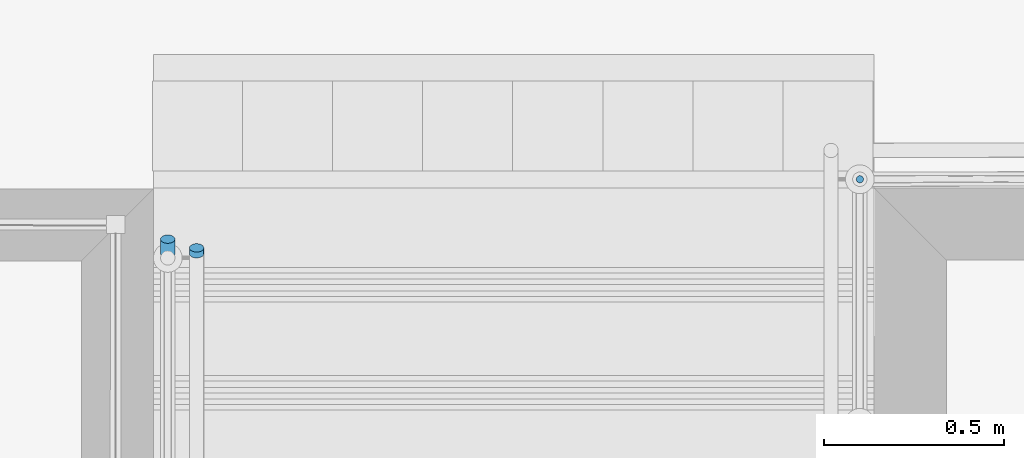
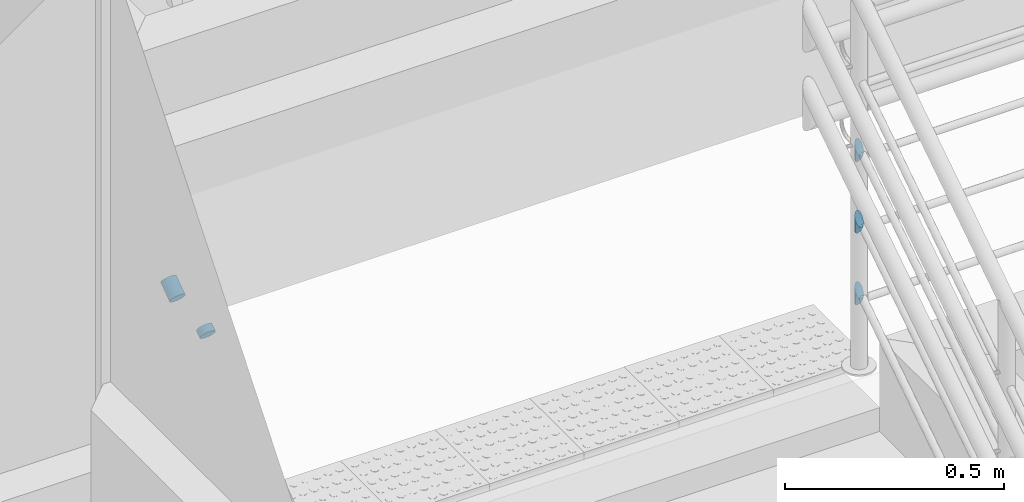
# One storey, part 145 of 237: 6 building element parts, 2 elements without a shape of their own.
"""IFC2X3 building model written with IfcOpenShell, lengths in millimetres."""

from ifc_helpers import new_model, entity, si_unit, converted_unit, derived_unit, money_unit, direction, frame, origin_with_axes, place, context, subcontext, project, spatial, faceted_brep, material, type_object, element, aggregate, save


model = new_model("IFC2X3")

# Units and contexts
model_context = context("Model", 3, precision=0.01, world=origin_with_axes(), true_north=direction((0.0, 1.0)))
body_context = subcontext(model_context, "Body", "Model", "MODEL_VIEW")
ifc_project = project(units=[si_unit("LENGTHUNIT", "METRE", prefix="MILLI"), si_unit("AREAUNIT", "SQUARE_METRE"), si_unit("VOLUMEUNIT", "CUBIC_METRE"), converted_unit("PLANEANGLEUNIT", "DEGREE", entity("IfcPlaneAngleMeasure", 0.0174532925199), si_unit("PLANEANGLEUNIT", "RADIAN"), dimensions=[0, 0, 0, 0, 0, 0, 0]), money_unit("USD"), converted_unit("TIMEUNIT", "Year", entity("IfcTimeMeasure", 31556926.0), si_unit("TIMEUNIT", "SECOND"), dimensions=[0, 0, 1, 0, 0, 0, 0]), si_unit("MASSUNIT", "GRAM", prefix="KILO"), si_unit("THERMODYNAMICTEMPERATUREUNIT", "DEGREE_CELSIUS"), si_unit("LUMINOUSINTENSITYUNIT", "LUMEN"), si_unit("ENERGYUNIT", "JOULE", prefix="MEGA"), derived_unit("THERMALCONDUCTANCEUNIT", [(si_unit("POWERUNIT", "WATT"), 1), (si_unit("LENGTHUNIT", "METRE"), -1), (si_unit("THERMODYNAMICTEMPERATUREUNIT", "KELVIN"), -1)]), derived_unit("SPECIFICHEATCAPACITYUNIT", [(si_unit("ENERGYUNIT", "JOULE"), 1), (si_unit("MASSUNIT", "GRAM", prefix="KILO"), -1), (si_unit("THERMODYNAMICTEMPERATUREUNIT", "KELVIN"), -1)]), derived_unit("MASSDENSITYUNIT", [(si_unit("MASSUNIT", "GRAM", prefix="KILO"), 1), (si_unit("VOLUMEUNIT", "CUBIC_METRE"), -1)])], contexts=[model_context])

# Site, building, storey
site_placement = place(None, origin_with_axes())
site = spatial("IfcSite", under=ifc_project, at=site_placement, Name="Local", CompositionType="ELEMENT")
building_placement = place(site_placement, origin_with_axes())
building = spatial("IfcBuilding", under=site, at=building_placement, Name="Construção", CompositionType="ELEMENT")
storey_placement = place(building_placement, origin_with_axes())
storey = spatial("IfcBuildingStorey", under=building, at=storey_placement, Name="Pavimento Térreo", CompositionType="ELEMENT", Elevation=0.0)

# Railing, building element parts
railing_type = type_object("IfcRailingType", Name="Tipo de Guarda-Corpo", PredefinedType="NOTDEFINED")
railing_1_placement = place(storey_placement, frame((77071.0413397, 23732.4143775, -4865.39060156), z_axis=(0.0, 0.0, 1.0), x_axis=(1.0, 0.0, 0.0)))
railing_1 = element("IfcRailing", 1, at=railing_1_placement, inside=storey, type_object=railing_type, Name="Guarda-Corpo - 001", PredefinedType="NOTDEFINED")
ifc_material = material(Name="Aço - Inoxidável")
building_element_part_1_placement = place(railing_1_placement, origin_with_axes())
building_element_part_1 = element("IfcBuildingElementPart", 2, at=building_element_part_1_placement, material=ifc_material, Name="Aço - Inoxidável", context=body_context, shape_type="Brep", body=[
    faceted_brep([(1797.91815812, -254.940737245, 2229.93461638), (1798.22200306, -256.971998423, 2232.75161015), (1798.22200306, -240.749577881, 2244.44917707), (1797.91815812, -238.718316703, 2241.6321833), (1798.22200306, -252.909476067, 2227.11762262), (1799.12430571, -250.939933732, 2224.38622179), (1800.59765005, -249.091953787, 2221.82340611), (1802.59726926, -247.421686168, 2219.50704546), (1805.06240593, -245.979881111, 2217.50752127), (1807.91815812, -244.810347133, 2215.88558808), (1811.07775526, -243.948619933, 2214.69052751), (1814.44519457, -243.420882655, 2213.95865086), (1817.91815812, -243.243170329, 2213.71219584), (1821.39112168, -243.420882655, 2213.95865086), (1824.75856099, -243.948619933, 2214.69052751), (1827.91815812, -244.810347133, 2215.88558808), (1830.77391032, -245.979881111, 2217.50752127), (1833.23904699, -247.421686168, 2219.50704546), (1835.2386662, -249.091953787, 2221.82340611), (1836.71201054, -250.939933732, 2224.38622179), (1837.61431318, -252.909476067, 2227.11762262), (1837.91815812, -254.940737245, 2229.93461638), (1837.61431318, -256.971998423, 2232.75161015), (1836.71201054, -258.941540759, 2235.48301098), (1835.2386662, -260.789520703, 2238.04582666), (1833.23904699, -262.459788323, 2240.36218731), (1830.77391032, -263.901593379, 2242.36171149), (1827.91815812, -265.071127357, 2243.98364468), (1824.75856099, -265.932854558, 2245.17870526), (1821.39112168, -266.460591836, 2245.91058191), (1817.91815812, -266.638304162, 2246.15703693), (1814.44519457, -266.460591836, 2245.91058191), (1811.07775526, -265.932854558, 2245.17870526), (1807.91815812, -265.071127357, 2243.98364468), (1805.06240593, -263.901593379, 2242.36171149), (1802.59726926, -262.459788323, 2240.36218731), (1800.59765005, -260.789520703, 2238.04582666), (1799.12430571, -258.941540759, 2235.48301098), (1799.12430571, -242.719120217, 2247.1805779), (1800.59765005, -244.567100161, 2249.74339357), (1802.59726926, -246.237367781, 2252.05975422), (1805.06240593, -247.679172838, 2254.05927841), (1807.91815812, -248.848706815, 2255.6812116), (1811.07775526, -249.710434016, 2256.87627218), (1814.44519457, -250.238171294, 2257.60814882), (1817.91815812, -250.41588362, 2257.85460384), (1821.39112168, -250.238171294, 2257.60814882), (1824.75856099, -249.710434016, 2256.87627218), (1827.91815812, -248.848706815, 2255.6812116), (1830.77391032, -247.679172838, 2254.05927841), (1833.23904699, -246.237367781, 2252.05975422), (1835.2386662, -244.567100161, 2249.74339357), (1836.71201054, -242.719120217, 2247.1805779), (1837.61431318, -240.749577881, 2244.44917707), (1837.91815812, -238.718316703, 2241.6321833), (1837.61431318, -236.687055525, 2238.81518954), (1836.71201054, -234.71751319, 2236.0837887), (1835.2386662, -232.869533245, 2233.52097303), (1833.23904699, -231.199265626, 2231.20461238), (1830.77391032, -229.757460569, 2229.20508819), (1827.91815812, -228.587926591, 2227.583155), (1824.75856099, -227.726199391, 2226.38809443), (1821.39112168, -227.198462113, 2225.65621778), (1817.91815812, -227.020749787, 2225.40976276), (1814.44519457, -227.198462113, 2225.65621778), (1811.07775526, -227.726199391, 2226.38809443), (1807.91815812, -228.587926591, 2227.583155), (1805.06240593, -229.757460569, 2229.20508819), (1802.59726926, -231.199265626, 2231.20461238), (1800.59765005, -232.869533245, 2233.52097303), (1799.12430571, -234.71751319, 2236.0837887), (1798.22200306, -236.687055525, 2238.81518954)], [[[0, 1, 2, 3]], [[0, 4, 5, 6, 7, 8, 9, 10, 11, 12, 13, 14, 15, 16, 17, 18, 19, 20, 21, 22, 23, 24, 25, 26, 27, 28, 29, 30, 31, 32, 33, 34, 35, 36, 37, 1]], [[1, 37, 38, 2]], [[3, 2, 38, 39, 40, 41, 42, 43, 44, 45, 46, 47, 48, 49, 50, 51, 52, 53, 54, 55, 56, 57, 58, 59, 60, 61, 62, 63, 64, 65, 66, 67, 68, 69, 70, 71]], [[4, 0, 3, 71]], [[5, 4, 71, 70]], [[6, 5, 70, 69]], [[7, 6, 69, 68]], [[8, 7, 68, 67]], [[9, 8, 67, 66]], [[10, 9, 66, 65]], [[11, 10, 65, 64]], [[12, 11, 64, 63]], [[13, 12, 63, 62]], [[14, 13, 62, 61]], [[15, 14, 61, 60]], [[16, 15, 60, 59]], [[17, 16, 59, 58]], [[18, 17, 58, 57]], [[19, 18, 57, 56]], [[20, 19, 56, 55]], [[21, 20, 55, 54]], [[22, 21, 54, 53]], [[23, 22, 53, 52]], [[24, 23, 52, 51]], [[25, 24, 51, 50]], [[26, 25, 50, 49]], [[27, 26, 49, 48]], [[28, 27, 48, 47]], [[29, 28, 47, 46]], [[30, 29, 46, 45]], [[31, 30, 45, 44]], [[32, 31, 44, 43]], [[33, 32, 43, 42]], [[34, 33, 42, 41]], [[35, 34, 41, 40]], [[36, 35, 40, 39]], [[37, 36, 39, 38]]]),
])
building_element_part_2_placement = place(railing_1_placement, origin_with_axes())
building_element_part_2 = element("IfcBuildingElementPart", 3, at=building_element_part_2_placement, material=ifc_material, Name="Aço - Inoxidável", context=body_context, shape_type="Brep", body=[
    faceted_brep([(1717.91815812, -254.940737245, 2359.93461638), (1718.22200306, -256.971998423, 2362.75161015), (1718.22200306, -216.415947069, 2391.99552744), (1717.91815812, -214.38468589, 2389.17853368), (1718.22200306, -252.909476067, 2357.11762262), (1719.12430571, -250.939933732, 2354.38622179), (1720.59765005, -249.091953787, 2351.82340611), (1722.59726926, -247.421686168, 2349.50704546), (1725.06240593, -245.979881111, 2347.50752127), (1727.91815812, -244.810347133, 2345.88558808), (1731.07775526, -243.948619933, 2344.69052751), (1734.44519457, -243.420882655, 2343.95865086), (1737.91815812, -243.243170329, 2343.71219584), (1741.39112168, -243.420882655, 2343.95865086), (1744.75856099, -243.948619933, 2344.69052751), (1747.91815812, -244.810347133, 2345.88558808), (1750.77391032, -245.979881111, 2347.50752127), (1753.23904699, -247.421686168, 2349.50704546), (1755.2386662, -249.091953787, 2351.82340611), (1756.71201054, -250.939933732, 2354.38622179), (1757.61431318, -252.909476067, 2357.11762262), (1757.91815812, -254.940737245, 2359.93461638), (1757.61431318, -256.971998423, 2362.75161015), (1756.71201054, -258.941540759, 2365.48301098), (1755.2386662, -260.789520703, 2368.04582666), (1753.23904699, -262.459788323, 2370.36218731), (1750.77391032, -263.901593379, 2372.36171149), (1747.91815812, -265.071127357, 2373.98364468), (1744.75856099, -265.932854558, 2375.17870526), (1741.39112168, -266.460591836, 2375.91058191), (1737.91815812, -266.638304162, 2376.15703693), (1734.44519457, -266.460591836, 2375.91058191), (1731.07775526, -265.932854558, 2375.17870526), (1727.91815812, -265.071127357, 2373.98364468), (1725.06240593, -263.901593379, 2372.36171149), (1722.59726926, -262.459788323, 2370.36218731), (1720.59765005, -260.789520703, 2368.04582666), (1719.12430571, -258.941540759, 2365.48301098), (1719.12430571, -218.385489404, 2394.72692827), (1720.59765005, -220.233469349, 2397.28974395), (1722.59726926, -221.903736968, 2399.6061046), (1725.06240593, -223.345542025, 2401.60562879), (1727.91815812, -224.515076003, 2403.22756198), (1731.07775526, -225.376803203, 2404.42262255), (1734.44519457, -225.904540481, 2405.1544992), (1737.91815812, -226.082252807, 2405.40095422), (1741.39112168, -225.904540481, 2405.1544992), (1744.75856099, -225.376803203, 2404.42262255), (1747.91815812, -224.515076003, 2403.22756198), (1750.77391032, -223.345542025, 2401.60562879), (1753.23904699, -221.903736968, 2399.6061046), (1755.2386662, -220.233469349, 2397.28974395), (1756.71201054, -218.385489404, 2394.72692827), (1757.61431318, -216.415947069, 2391.99552744), (1757.91815812, -214.38468589, 2389.17853368), (1757.61431318, -212.353424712, 2386.36153991), (1756.71201054, -210.383882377, 2383.63013908), (1755.2386662, -208.535902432, 2381.0673234), (1753.23904699, -206.865634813, 2378.75096275), (1750.77391032, -205.423829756, 2376.75143857), (1747.91815812, -204.254295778, 2375.12950538), (1744.75856099, -203.392568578, 2373.9344448), (1741.39112168, -202.8648313, 2373.20256815), (1737.91815812, -202.687118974, 2372.95611313), (1734.44519457, -202.8648313, 2373.20256815), (1731.07775526, -203.392568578, 2373.9344448), (1727.91815812, -204.254295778, 2375.12950538), (1725.06240593, -205.423829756, 2376.75143857), (1722.59726926, -206.865634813, 2378.75096275), (1720.59765005, -208.535902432, 2381.0673234), (1719.12430571, -210.383882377, 2383.63013908), (1718.22200306, -212.353424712, 2386.36153991)], [[[0, 1, 2, 3]], [[0, 4, 5, 6, 7, 8, 9, 10, 11, 12, 13, 14, 15, 16, 17, 18, 19, 20, 21, 22, 23, 24, 25, 26, 27, 28, 29, 30, 31, 32, 33, 34, 35, 36, 37, 1]], [[1, 37, 38, 2]], [[3, 2, 38, 39, 40, 41, 42, 43, 44, 45, 46, 47, 48, 49, 50, 51, 52, 53, 54, 55, 56, 57, 58, 59, 60, 61, 62, 63, 64, 65, 66, 67, 68, 69, 70, 71]], [[4, 0, 3, 71]], [[5, 4, 71, 70]], [[6, 5, 70, 69]], [[7, 6, 69, 68]], [[8, 7, 68, 67]], [[9, 8, 67, 66]], [[10, 9, 66, 65]], [[11, 10, 65, 64]], [[12, 11, 64, 63]], [[13, 12, 63, 62]], [[14, 13, 62, 61]], [[15, 14, 61, 60]], [[16, 15, 60, 59]], [[17, 16, 59, 58]], [[18, 17, 58, 57]], [[19, 18, 57, 56]], [[20, 19, 56, 55]], [[21, 20, 55, 54]], [[22, 21, 54, 53]], [[23, 22, 53, 52]], [[24, 23, 52, 51]], [[25, 24, 51, 50]], [[26, 25, 50, 49]], [[27, 26, 49, 48]], [[28, 27, 48, 47]], [[29, 28, 47, 46]], [[30, 29, 46, 45]], [[31, 30, 45, 44]], [[32, 31, 44, 43]], [[33, 32, 43, 42]], [[34, 33, 42, 41]], [[35, 34, 41, 40]], [[36, 35, 40, 39]], [[37, 36, 39, 38]]]),
])
aggregate(railing_1, [building_element_part_1, building_element_part_2])

railing_2_placement = place(storey_placement, frame((84562.8908804, 21657.2175927, -4868.39227091), z_axis=(0.0, 0.0, 1.0), x_axis=(1.0, 0.0, 0.0)))
railing_2 = element("IfcRailing", 4, at=railing_2_placement, inside=storey, type_object=railing_type, Name="Guarda-Corpo - 002", PredefinedType="NOTDEFINED")
building_element_part_3_placement = place(railing_2_placement, origin_with_axes())
building_element_part_3 = element("IfcBuildingElementPart", 5, at=building_element_part_3_placement, material=ifc_material, Name="Aço - Inoxidável", context=body_context, shape_type="Brep", body=[
    faceted_brep([(-3824.08330714, 2025.13232663, 1571.19341628), (-3823.93138467, 2026.86880841, 1571.34905472), (-3823.93138467, 2026.86880841, 1587.48837463), (-3824.08330714, 2025.13232663, 1584.27445064), (-3824.08330714, 2028.60529018, 1571.20099188), (-3824.53445846, 2023.44860697, 1570.73880556), (-3825.27113063, 2021.86880841, 1569.99903566), (-3826.27094024, 2020.44093231, 1568.99658413), (-3827.50350857, 2019.20836398, 1567.76190994), (-3828.93138467, 2018.20855437, 1566.33252804), (-3830.51118324, 2017.4718822, 1564.75186949), (-3832.1949029, 2017.02073088, 1563.06796179), (-3833.93138467, 2016.86880841, 1561.33196962), (-3835.66786645, 2017.02073088, 1559.59664024), (-3837.35158611, 2017.4718822, 1557.91470073), (-3838.93138467, 2018.20855437, 1556.33725599), (-3840.35926077, 2019.20836398, 1554.91223588), (-3841.5918291, 2020.44093231, 1553.6829389), (-3842.59163871, 2021.86880841, 1552.68671663), (-3843.32831088, 2023.44860697, 1551.95383878), (-3843.7794622, 2025.13232663, 1551.50657346), (-3843.93138467, 2026.86880841, 1551.35851062), (-3843.7794622, 2028.60529018, 1551.51414906), (-3843.32831088, 2030.28900984, 1551.96875978), (-3842.59163871, 2031.86880841, 1552.70852968), (-3841.5918291, 2033.2966845, 1553.71098121), (-3840.35926077, 2034.52925284, 1554.9456554), (-3838.93138467, 2035.52906244, 1556.37503729), (-3837.35158611, 2036.26573461, 1557.95569585), (-3835.66786645, 2036.71688594, 1559.63960355), (-3833.93138467, 2036.86880841, 1561.37559571), (-3832.1949029, 2036.71688594, 1563.1109251), (-3830.51118324, 2036.26573461, 1564.79286461), (-3828.93138467, 2035.52906244, 1566.37030935), (-3827.50350857, 2034.52925284, 1567.79532946), (-3826.27094024, 2033.2966845, 1569.02462644), (-3825.27113063, 2031.86880841, 1570.02084871), (-3824.53445846, 2030.28900984, 1570.75372656), (-3824.08330714, 2028.60529018, 1590.70229862), (-3842.59163871, 2031.86880841, 1596.74249994), (-3843.32831088, 2030.28900984, 1593.81856916), (-3843.7794622, 2028.60529018, 1590.70229862), (-3843.93138467, 2026.86880841, 1587.48837463), (-3843.7794622, 2025.13232663, 1584.27445064), (-3843.32831088, 2023.44860697, 1581.1581801), (-3842.59163871, 2021.86880841, 1578.23424932), (-3841.5918291, 2020.44093231, 1575.59150045), (-3840.35926077, 2019.20836398, 1573.31023209), (-3838.93138467, 2018.20855437, 1571.45975941), (-3837.35158611, 2017.4718822, 1570.0963081), (-3835.66786645, 2017.02073088, 1569.26130593), (-3833.93138467, 2016.86880841, 1568.98012401), (-3832.1949029, 2017.02073088, 1569.26130593), (-3830.51118324, 2017.4718822, 1570.0963081), (-3828.93138467, 2018.20855437, 1571.45975941), (-3827.50350857, 2019.20836398, 1573.31023209), (-3826.27094024, 2020.44093231, 1575.59150045), (-3825.27113063, 2021.86880841, 1578.23424932), (-3824.53445846, 2023.44860697, 1581.1581801), (-3824.53445846, 2030.28900984, 1593.81856916), (-3825.27113063, 2031.86880841, 1596.74249994), (-3826.27094024, 2033.2966845, 1599.3852488), (-3827.50350857, 2034.52925284, 1601.66651717), (-3828.93138467, 2035.52906244, 1603.51698984), (-3830.51118324, 2036.26573461, 1604.88044116), (-3832.1949029, 2036.71688594, 1605.71544333), (-3833.93138467, 2036.86880841, 1605.99662525), (-3835.66786645, 2036.71688594, 1605.71544333), (-3837.35158611, 2036.26573461, 1604.88044116), (-3838.93138467, 2035.52906244, 1603.51698984), (-3840.35926077, 2034.52925284, 1601.66651717), (-3841.5918291, 2033.2966845, 1599.3852488)], [[[0, 1, 2, 3]], [[4, 1, 0, 5, 6, 7, 8, 9, 10, 11, 12, 13, 14, 15, 16, 17, 18, 19, 20, 21, 22, 23, 24, 25, 26, 27, 28, 29, 30, 31, 32, 33, 34, 35, 36, 37]], [[1, 4, 38, 2]], [[39, 40, 41, 42, 43, 44, 45, 46, 47, 48, 49, 50, 51, 52, 53, 54, 55, 56, 57, 58, 3, 2, 38, 59, 60, 61, 62, 63, 64, 65, 66, 67, 68, 69, 70, 71]], [[5, 0, 3, 58]], [[6, 5, 58, 57]], [[7, 6, 57, 56]], [[8, 7, 56, 55]], [[9, 8, 55, 54]], [[10, 9, 54, 53]], [[11, 10, 53, 52]], [[12, 11, 52, 51]], [[13, 12, 51, 50]], [[14, 13, 50, 49]], [[15, 14, 49, 48]], [[16, 15, 48, 47]], [[17, 16, 47, 46]], [[18, 17, 46, 45]], [[19, 18, 45, 44]], [[20, 19, 44, 43]], [[21, 20, 43, 42]], [[22, 21, 42, 41]], [[23, 22, 41, 40]], [[24, 23, 40, 39]], [[25, 24, 39, 71]], [[26, 25, 71, 70]], [[27, 26, 70, 69]], [[28, 27, 69, 68]], [[29, 28, 68, 67]], [[30, 29, 67, 66]], [[31, 30, 66, 65]], [[32, 31, 65, 64]], [[33, 32, 64, 63]], [[34, 33, 63, 62]], [[35, 34, 62, 61]], [[36, 35, 61, 60]], [[37, 36, 60, 59]], [[4, 37, 59, 38]]]),
])
building_element_part_4_placement = place(railing_2_placement, origin_with_axes())
building_element_part_4 = element("IfcBuildingElementPart", 6, at=building_element_part_4_placement, material=ifc_material, Name="Aço - Inoxidável", context=body_context, shape_type="Brep", body=[
    faceted_brep([(-3824.08330714, 2025.13232663, 1771.19341628), (-3823.93138467, 2026.86880841, 1771.34905472), (-3823.93138467, 2026.86880841, 1787.48837463), (-3824.08330714, 2025.13232663, 1784.27445064), (-3824.08330714, 2028.60529018, 1771.20099188), (-3824.53445846, 2023.44860697, 1770.73880556), (-3825.27113063, 2021.86880841, 1769.99903566), (-3826.27094024, 2020.44093231, 1768.99658413), (-3827.50350857, 2019.20836398, 1767.76190994), (-3828.93138467, 2018.20855437, 1766.33252804), (-3830.51118324, 2017.4718822, 1764.75186949), (-3832.1949029, 2017.02073088, 1763.06796179), (-3833.93138467, 2016.86880841, 1761.33196962), (-3835.66786645, 2017.02073088, 1759.59664024), (-3837.35158611, 2017.4718822, 1757.91470073), (-3838.93138467, 2018.20855437, 1756.33725599), (-3840.35926077, 2019.20836398, 1754.91223588), (-3841.5918291, 2020.44093231, 1753.6829389), (-3842.59163871, 2021.86880841, 1752.68671663), (-3843.32831088, 2023.44860697, 1751.95383878), (-3843.7794622, 2025.13232663, 1751.50657346), (-3843.93138467, 2026.86880841, 1751.35851062), (-3843.7794622, 2028.60529018, 1751.51414906), (-3843.32831088, 2030.28900984, 1751.96875978), (-3842.59163871, 2031.86880841, 1752.70852968), (-3841.5918291, 2033.2966845, 1753.71098121), (-3840.35926077, 2034.52925284, 1754.9456554), (-3838.93138467, 2035.52906244, 1756.37503729), (-3837.35158611, 2036.26573461, 1757.95569585), (-3835.66786645, 2036.71688594, 1759.63960355), (-3833.93138467, 2036.86880841, 1761.37559571), (-3832.1949029, 2036.71688594, 1763.1109251), (-3830.51118324, 2036.26573461, 1764.79286461), (-3828.93138467, 2035.52906244, 1766.37030935), (-3827.50350857, 2034.52925284, 1767.79532946), (-3826.27094024, 2033.2966845, 1769.02462644), (-3825.27113063, 2031.86880841, 1770.02084871), (-3824.53445846, 2030.28900984, 1770.75372656), (-3824.08330714, 2028.60529018, 1790.70229862), (-3842.59163871, 2031.86880841, 1796.74249994), (-3843.32831088, 2030.28900984, 1793.81856916), (-3843.7794622, 2028.60529018, 1790.70229862), (-3843.93138467, 2026.86880841, 1787.48837463), (-3843.7794622, 2025.13232663, 1784.27445064), (-3843.32831088, 2023.44860697, 1781.1581801), (-3842.59163871, 2021.86880841, 1778.23424932), (-3841.5918291, 2020.44093231, 1775.59150045), (-3840.35926077, 2019.20836398, 1773.31023209), (-3838.93138467, 2018.20855437, 1771.45975941), (-3837.35158611, 2017.4718822, 1770.0963081), (-3835.66786645, 2017.02073088, 1769.26130593), (-3833.93138467, 2016.86880841, 1768.98012401), (-3832.1949029, 2017.02073088, 1769.26130593), (-3830.51118324, 2017.4718822, 1770.0963081), (-3828.93138467, 2018.20855437, 1771.45975941), (-3827.50350857, 2019.20836398, 1773.31023209), (-3826.27094024, 2020.44093231, 1775.59150045), (-3825.27113063, 2021.86880841, 1778.23424932), (-3824.53445846, 2023.44860697, 1781.1581801), (-3824.53445846, 2030.28900984, 1793.81856916), (-3825.27113063, 2031.86880841, 1796.74249994), (-3826.27094024, 2033.2966845, 1799.3852488), (-3827.50350857, 2034.52925284, 1801.66651717), (-3828.93138467, 2035.52906244, 1803.51698984), (-3830.51118324, 2036.26573461, 1804.88044116), (-3832.1949029, 2036.71688594, 1805.71544333), (-3833.93138467, 2036.86880841, 1805.99662525), (-3835.66786645, 2036.71688594, 1805.71544333), (-3837.35158611, 2036.26573461, 1804.88044116), (-3838.93138467, 2035.52906244, 1803.51698984), (-3840.35926077, 2034.52925284, 1801.66651717), (-3841.5918291, 2033.2966845, 1799.3852488)], [[[0, 1, 2, 3]], [[4, 1, 0, 5, 6, 7, 8, 9, 10, 11, 12, 13, 14, 15, 16, 17, 18, 19, 20, 21, 22, 23, 24, 25, 26, 27, 28, 29, 30, 31, 32, 33, 34, 35, 36, 37]], [[1, 4, 38, 2]], [[39, 40, 41, 42, 43, 44, 45, 46, 47, 48, 49, 50, 51, 52, 53, 54, 55, 56, 57, 58, 3, 2, 38, 59, 60, 61, 62, 63, 64, 65, 66, 67, 68, 69, 70, 71]], [[5, 0, 3, 58]], [[6, 5, 58, 57]], [[7, 6, 57, 56]], [[8, 7, 56, 55]], [[9, 8, 55, 54]], [[10, 9, 54, 53]], [[11, 10, 53, 52]], [[12, 11, 52, 51]], [[13, 12, 51, 50]], [[14, 13, 50, 49]], [[15, 14, 49, 48]], [[16, 15, 48, 47]], [[17, 16, 47, 46]], [[18, 17, 46, 45]], [[19, 18, 45, 44]], [[20, 19, 44, 43]], [[21, 20, 43, 42]], [[22, 21, 42, 41]], [[23, 22, 41, 40]], [[24, 23, 40, 39]], [[25, 24, 39, 71]], [[26, 25, 71, 70]], [[27, 26, 70, 69]], [[28, 27, 69, 68]], [[29, 28, 68, 67]], [[30, 29, 67, 66]], [[31, 30, 66, 65]], [[32, 31, 65, 64]], [[33, 32, 64, 63]], [[34, 33, 63, 62]], [[35, 34, 62, 61]], [[36, 35, 61, 60]], [[37, 36, 60, 59]], [[4, 37, 59, 38]]]),
])
building_element_part_5_placement = place(railing_2_placement, origin_with_axes())
building_element_part_5 = element("IfcBuildingElementPart", 7, at=building_element_part_5_placement, material=ifc_material, Name="Aço - Inoxidável", context=body_context, shape_type="Brep", body=[
    faceted_brep([(-3824.08330714, 2025.13232663, 1771.19341628), (-3823.93138467, 2026.86880841, 1771.34905472), (-3823.93138467, 2026.86880841, 1787.48837463), (-3824.08330714, 2025.13232663, 1784.27445064), (-3824.08330714, 2028.60529018, 1771.20099188), (-3824.53445846, 2023.44860697, 1770.73880556), (-3825.27113063, 2021.86880841, 1769.99903566), (-3826.27094024, 2020.44093231, 1768.99658413), (-3827.50350857, 2019.20836398, 1767.76190994), (-3828.93138467, 2018.20855437, 1766.33252804), (-3830.51118324, 2017.4718822, 1764.75186949), (-3832.1949029, 2017.02073088, 1763.06796179), (-3833.93138467, 2016.86880841, 1761.33196962), (-3835.66786645, 2017.02073088, 1759.59664024), (-3837.35158611, 2017.4718822, 1757.91470073), (-3838.93138467, 2018.20855437, 1756.33725599), (-3840.35926077, 2019.20836398, 1754.91223588), (-3841.5918291, 2020.44093231, 1753.6829389), (-3842.59163871, 2021.86880841, 1752.68671663), (-3843.32831088, 2023.44860697, 1751.95383878), (-3843.7794622, 2025.13232663, 1751.50657346), (-3843.93138467, 2026.86880841, 1751.35851062), (-3843.7794622, 2028.60529018, 1751.51414906), (-3843.32831088, 2030.28900984, 1751.96875978), (-3842.59163871, 2031.86880841, 1752.70852968), (-3841.5918291, 2033.2966845, 1753.71098121), (-3840.35926077, 2034.52925284, 1754.9456554), (-3838.93138467, 2035.52906244, 1756.37503729), (-3837.35158611, 2036.26573461, 1757.95569585), (-3835.66786645, 2036.71688594, 1759.63960355), (-3833.93138467, 2036.86880841, 1761.37559571), (-3832.1949029, 2036.71688594, 1763.1109251), (-3830.51118324, 2036.26573461, 1764.79286461), (-3828.93138467, 2035.52906244, 1766.37030935), (-3827.50350857, 2034.52925284, 1767.79532946), (-3826.27094024, 2033.2966845, 1769.02462644), (-3825.27113063, 2031.86880841, 1770.02084871), (-3824.53445846, 2030.28900984, 1770.75372656), (-3824.08330714, 2028.60529018, 1790.70229862), (-3842.59163871, 2031.86880841, 1796.74249994), (-3843.32831088, 2030.28900984, 1793.81856916), (-3843.7794622, 2028.60529018, 1790.70229862), (-3843.93138467, 2026.86880841, 1787.48837463), (-3843.7794622, 2025.13232663, 1784.27445064), (-3843.32831088, 2023.44860697, 1781.1581801), (-3842.59163871, 2021.86880841, 1778.23424932), (-3841.5918291, 2020.44093231, 1775.59150045), (-3840.35926077, 2019.20836398, 1773.31023209), (-3838.93138467, 2018.20855437, 1771.45975941), (-3837.35158611, 2017.4718822, 1770.0963081), (-3835.66786645, 2017.02073088, 1769.26130593), (-3833.93138467, 2016.86880841, 1768.98012401), (-3832.1949029, 2017.02073088, 1769.26130593), (-3830.51118324, 2017.4718822, 1770.0963081), (-3828.93138467, 2018.20855437, 1771.45975941), (-3827.50350857, 2019.20836398, 1773.31023209), (-3826.27094024, 2020.44093231, 1775.59150045), (-3825.27113063, 2021.86880841, 1778.23424932), (-3824.53445846, 2023.44860697, 1781.1581801), (-3824.53445846, 2030.28900984, 1793.81856916), (-3825.27113063, 2031.86880841, 1796.74249994), (-3826.27094024, 2033.2966845, 1799.3852488), (-3827.50350857, 2034.52925284, 1801.66651717), (-3828.93138467, 2035.52906244, 1803.51698984), (-3830.51118324, 2036.26573461, 1804.88044116), (-3832.1949029, 2036.71688594, 1805.71544333), (-3833.93138467, 2036.86880841, 1805.99662525), (-3835.66786645, 2036.71688594, 1805.71544333), (-3837.35158611, 2036.26573461, 1804.88044116), (-3838.93138467, 2035.52906244, 1803.51698984), (-3840.35926077, 2034.52925284, 1801.66651717), (-3841.5918291, 2033.2966845, 1799.3852488)], [[[0, 1, 2, 3]], [[4, 1, 0, 5, 6, 7, 8, 9, 10, 11, 12, 13, 14, 15, 16, 17, 18, 19, 20, 21, 22, 23, 24, 25, 26, 27, 28, 29, 30, 31, 32, 33, 34, 35, 36, 37]], [[1, 4, 38, 2]], [[39, 40, 41, 42, 43, 44, 45, 46, 47, 48, 49, 50, 51, 52, 53, 54, 55, 56, 57, 58, 3, 2, 38, 59, 60, 61, 62, 63, 64, 65, 66, 67, 68, 69, 70, 71]], [[5, 0, 3, 58]], [[6, 5, 58, 57]], [[7, 6, 57, 56]], [[8, 7, 56, 55]], [[9, 8, 55, 54]], [[10, 9, 54, 53]], [[11, 10, 53, 52]], [[12, 11, 52, 51]], [[13, 12, 51, 50]], [[14, 13, 50, 49]], [[15, 14, 49, 48]], [[16, 15, 48, 47]], [[17, 16, 47, 46]], [[18, 17, 46, 45]], [[19, 18, 45, 44]], [[20, 19, 44, 43]], [[21, 20, 43, 42]], [[22, 21, 42, 41]], [[23, 22, 41, 40]], [[24, 23, 40, 39]], [[25, 24, 39, 71]], [[26, 25, 71, 70]], [[27, 26, 70, 69]], [[28, 27, 69, 68]], [[29, 28, 68, 67]], [[30, 29, 67, 66]], [[31, 30, 66, 65]], [[32, 31, 65, 64]], [[33, 32, 64, 63]], [[34, 33, 63, 62]], [[35, 34, 62, 61]], [[36, 35, 61, 60]], [[37, 36, 60, 59]], [[4, 37, 59, 38]]]),
])
building_element_part_6_placement = place(railing_2_placement, origin_with_axes())
building_element_part_6 = element("IfcBuildingElementPart", 8, at=building_element_part_6_placement, material=ifc_material, Name="Aço - Inoxidável", context=body_context, shape_type="Brep", body=[
    faceted_brep([(-3824.08330714, 2025.13232663, 1971.19341628), (-3823.93138467, 2026.86880841, 1971.34905472), (-3823.93138467, 2026.86880841, 1987.48837463), (-3824.08330714, 2025.13232663, 1984.27445064), (-3824.08330714, 2028.60529018, 1971.20099188), (-3824.53445846, 2023.44860697, 1970.73880556), (-3825.27113063, 2021.86880841, 1969.99903566), (-3826.27094024, 2020.44093231, 1968.99658413), (-3827.50350857, 2019.20836398, 1967.76190994), (-3828.93138467, 2018.20855437, 1966.33252804), (-3830.51118324, 2017.4718822, 1964.75186949), (-3832.1949029, 2017.02073088, 1963.06796179), (-3833.93138467, 2016.86880841, 1961.33196962), (-3835.66786645, 2017.02073088, 1959.59664024), (-3837.35158611, 2017.4718822, 1957.91470073), (-3838.93138467, 2018.20855437, 1956.33725599), (-3840.35926077, 2019.20836398, 1954.91223588), (-3841.5918291, 2020.44093231, 1953.6829389), (-3842.59163871, 2021.86880841, 1952.68671663), (-3843.32831088, 2023.44860697, 1951.95383878), (-3843.7794622, 2025.13232663, 1951.50657346), (-3843.93138467, 2026.86880841, 1951.35851062), (-3843.7794622, 2028.60529018, 1951.51414906), (-3843.32831088, 2030.28900984, 1951.96875978), (-3842.59163871, 2031.86880841, 1952.70852968), (-3841.5918291, 2033.2966845, 1953.71098121), (-3840.35926077, 2034.52925284, 1954.9456554), (-3838.93138467, 2035.52906244, 1956.37503729), (-3837.35158611, 2036.26573461, 1957.95569585), (-3835.66786645, 2036.71688594, 1959.63960355), (-3833.93138467, 2036.86880841, 1961.37559571), (-3832.1949029, 2036.71688594, 1963.1109251), (-3830.51118324, 2036.26573461, 1964.79286461), (-3828.93138467, 2035.52906244, 1966.37030935), (-3827.50350857, 2034.52925284, 1967.79532946), (-3826.27094024, 2033.2966845, 1969.02462644), (-3825.27113063, 2031.86880841, 1970.02084871), (-3824.53445846, 2030.28900984, 1970.75372656), (-3824.08330714, 2028.60529018, 1990.70229862), (-3842.59163871, 2031.86880841, 1996.74249994), (-3843.32831088, 2030.28900984, 1993.81856916), (-3843.7794622, 2028.60529018, 1990.70229862), (-3843.93138467, 2026.86880841, 1987.48837463), (-3843.7794622, 2025.13232663, 1984.27445064), (-3843.32831088, 2023.44860697, 1981.1581801), (-3842.59163871, 2021.86880841, 1978.23424932), (-3841.5918291, 2020.44093231, 1975.59150045), (-3840.35926077, 2019.20836398, 1973.31023209), (-3838.93138467, 2018.20855437, 1971.45975941), (-3837.35158611, 2017.4718822, 1970.0963081), (-3835.66786645, 2017.02073088, 1969.26130593), (-3833.93138467, 2016.86880841, 1968.98012401), (-3832.1949029, 2017.02073088, 1969.26130593), (-3830.51118324, 2017.4718822, 1970.0963081), (-3828.93138467, 2018.20855437, 1971.45975941), (-3827.50350857, 2019.20836398, 1973.31023209), (-3826.27094024, 2020.44093231, 1975.59150045), (-3825.27113063, 2021.86880841, 1978.23424932), (-3824.53445846, 2023.44860697, 1981.1581801), (-3824.53445846, 2030.28900984, 1993.81856916), (-3825.27113063, 2031.86880841, 1996.74249994), (-3826.27094024, 2033.2966845, 1999.3852488), (-3827.50350857, 2034.52925284, 2001.66651717), (-3828.93138467, 2035.52906244, 2003.51698984), (-3830.51118324, 2036.26573461, 2004.88044116), (-3832.1949029, 2036.71688594, 2005.71544333), (-3833.93138467, 2036.86880841, 2005.99662525), (-3835.66786645, 2036.71688594, 2005.71544333), (-3837.35158611, 2036.26573461, 2004.88044116), (-3838.93138467, 2035.52906244, 2003.51698984), (-3840.35926077, 2034.52925284, 2001.66651717), (-3841.5918291, 2033.2966845, 1999.3852488)], [[[0, 1, 2, 3]], [[4, 1, 0, 5, 6, 7, 8, 9, 10, 11, 12, 13, 14, 15, 16, 17, 18, 19, 20, 21, 22, 23, 24, 25, 26, 27, 28, 29, 30, 31, 32, 33, 34, 35, 36, 37]], [[1, 4, 38, 2]], [[39, 40, 41, 42, 43, 44, 45, 46, 47, 48, 49, 50, 51, 52, 53, 54, 55, 56, 57, 58, 3, 2, 38, 59, 60, 61, 62, 63, 64, 65, 66, 67, 68, 69, 70, 71]], [[5, 0, 3, 58]], [[6, 5, 58, 57]], [[7, 6, 57, 56]], [[8, 7, 56, 55]], [[9, 8, 55, 54]], [[10, 9, 54, 53]], [[11, 10, 53, 52]], [[12, 11, 52, 51]], [[13, 12, 51, 50]], [[14, 13, 50, 49]], [[15, 14, 49, 48]], [[16, 15, 48, 47]], [[17, 16, 47, 46]], [[18, 17, 46, 45]], [[19, 18, 45, 44]], [[20, 19, 44, 43]], [[21, 20, 43, 42]], [[22, 21, 42, 41]], [[23, 22, 41, 40]], [[24, 23, 40, 39]], [[25, 24, 39, 71]], [[26, 25, 71, 70]], [[27, 26, 70, 69]], [[28, 27, 69, 68]], [[29, 28, 68, 67]], [[30, 29, 67, 66]], [[31, 30, 66, 65]], [[32, 31, 65, 64]], [[33, 32, 64, 63]], [[34, 33, 63, 62]], [[35, 34, 62, 61]], [[36, 35, 61, 60]], [[37, 36, 60, 59]], [[4, 37, 59, 38]]]),
])
aggregate(railing_2, [building_element_part_3, building_element_part_4, building_element_part_5, building_element_part_6])

save(model, "model.ifc")
